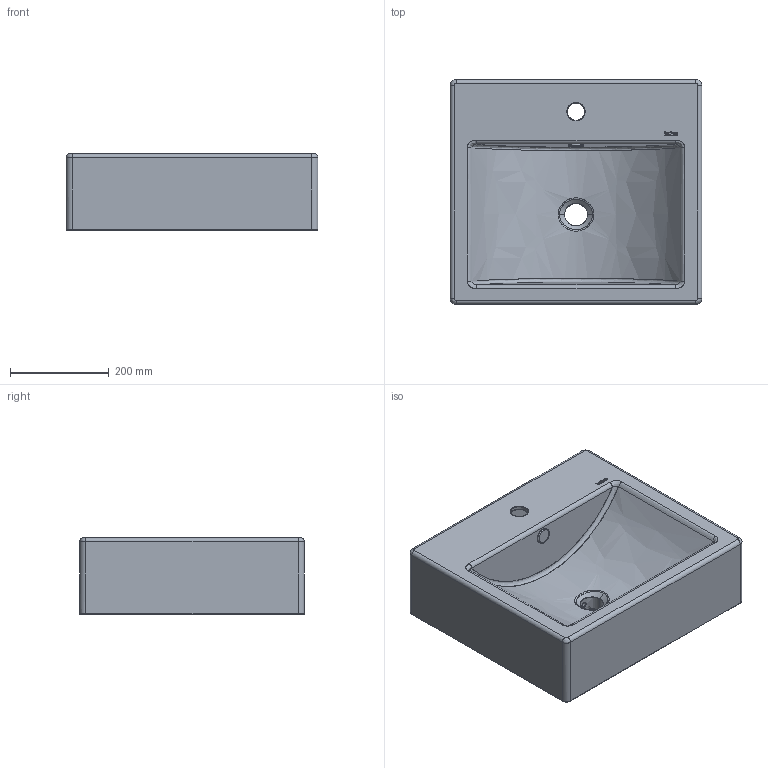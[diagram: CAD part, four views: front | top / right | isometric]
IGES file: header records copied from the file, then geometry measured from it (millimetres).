
Global section: file name: C:\Users\User\Desktop\0010 Bolonia\0010 Bolonia.igs; native system: Rhinoceros ( Feb 26 2015 ); preprocessor: Trout Lake IGES 012 Feb 26 2015; date: 200907.153613; units: millimetre
Bounding box: 510 x 455 x 155.2 mm (x, y, z)
Surface area: 1231682.8 mm2 (no closed solid volume)
Topology: 0 solids, 0 shells, 259 faces, 2318 edges, 2308 vertices
Faces by surface type: bspline 259
